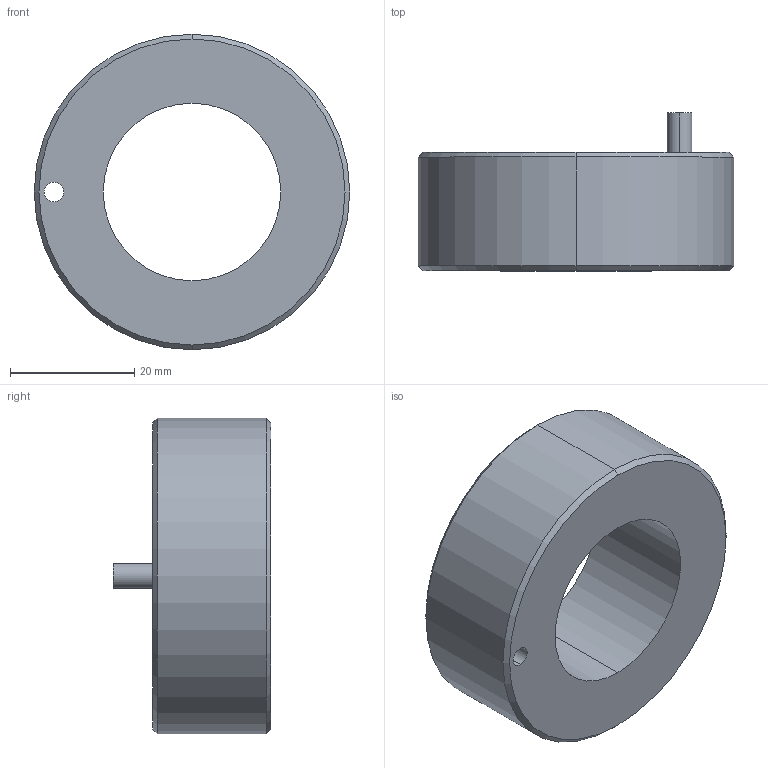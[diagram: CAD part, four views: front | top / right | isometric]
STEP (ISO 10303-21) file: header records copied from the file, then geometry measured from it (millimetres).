
FILE_DESCRIPTION (( 'STEP AP203' ), '1' );
FILE_NAME ('SS1114-4K.STEP', '2014-08-20T19:46:12', ( 'user' ), ( 'Microsoft' ), 'SwSTEP 2.0', 'SolidWorks 2008', '' );
FILE_SCHEMA (( 'CONFIG_CONTROL_DESIGN' ));
Length unit declared in the file: inch
Products named in the file (1): SS1114-4K
Bounding box: 50.8 x 25.4 x 50.8 mm (x, y, z)
Volume: 26230.3 mm3; surface area: 7630.8 mm2
Topology: 1 solids, 1 shells, 15 faces, 32 edges, 20 vertices
Faces by surface type: cylinder 8, cone 4, plane 3
Entity records: 501 total; most frequent: DIRECTION 84, CARTESIAN_POINT 68, ORIENTED_EDGE 64, AXIS2_PLACEMENT_3D 36, EDGE_CURVE 32, EDGE_LOOP 20, VERTEX_POINT 20, CIRCLE 20
